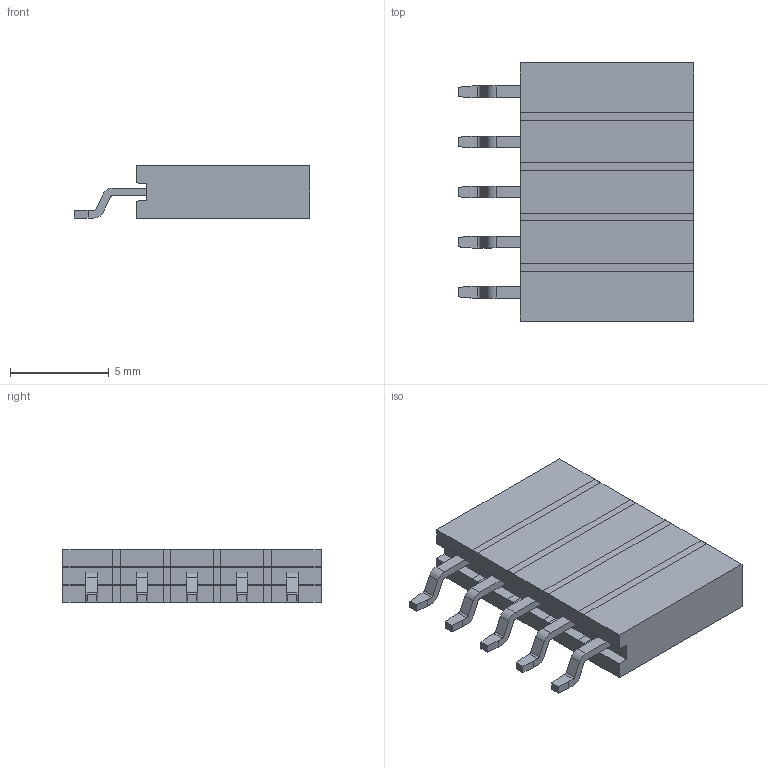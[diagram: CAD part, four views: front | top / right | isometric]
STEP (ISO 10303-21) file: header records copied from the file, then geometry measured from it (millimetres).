
FILE_DESCRIPTION(('FreeCAD Model'),'2;1');
FILE_NAME('Open CASCADE Shape Model','2025-02-26T22:01:27',( 'Krisjanis Rijnieks'),(''),'Open CASCADE STEP processor 7.7', 'FreeCAD','Unknown');
FILE_SCHEMA(('AUTOMOTIVE_DESIGN { 1 0 10303 214 1 1 1 1 }'));
Length unit declared in the file: millimetre
Products named in the file (19): 01x05_P2.54mm_Horizontal_SMD; 01x02_P2.54mm_Horizontal_SMD003; 01x01_P2.54mm_Horizontal_SMD010; HorizontalLead010; HorizontalSocket010; 01x01_P2.54mm_Horizontal_SMD011; HorizontalLead011; HorizontalSocket011; 01x03_P2.54mm_Horizontal_SMD002; 01x01_P2.54mm_Horizontal_SMD012; HorizontalLead012; HorizontalSocket012; 01x02_P2.54mm_Horizontal_SMD004; 01x01_P2.54mm_Horizontal_SMD013; HorizontalLead013; HorizontalSocket013; 01x01_P2.54mm_Horizontal_SMD014; HorizontalLead014; HorizontalSocket014
Assembly tree (18 placements, depth 5):
  01x05_P2.54mm_Horizontal_SMD
    01x02_P2.54mm_Horizontal_SMD003
      01x01_P2.54mm_Horizontal_SMD010
        HorizontalLead010
        HorizontalSocket010
      01x01_P2.54mm_Horizontal_SMD011
        HorizontalLead011
        HorizontalSocket011
    01x03_P2.54mm_Horizontal_SMD002
      01x01_P2.54mm_Horizontal_SMD012
        HorizontalLead012
        HorizontalSocket012
      01x02_P2.54mm_Horizontal_SMD004
        01x01_P2.54mm_Horizontal_SMD013
          HorizontalLead013
          HorizontalSocket013
        01x01_P2.54mm_Horizontal_SMD014
          HorizontalLead014
          HorizontalSocket014
Bounding box: 11.95 x 13.1 x 2.65 mm (x, y, z)
Volume: 321.4 mm3; surface area: 742.5 mm2
Topology: 10 solids, 10 shells, 175 faces, 430 edges, 280 vertices
Faces by surface type: plane 155, cylinder 20
Entity records: 5483 total; most frequent: CARTESIAN_POINT 904, ORIENTED_EDGE 860, DIRECTION 858, EDGE_CURVE 430, LINE 390, VECTOR 390, VERTEX_POINT 280, AXIS2_PLACEMENT_3D 234
